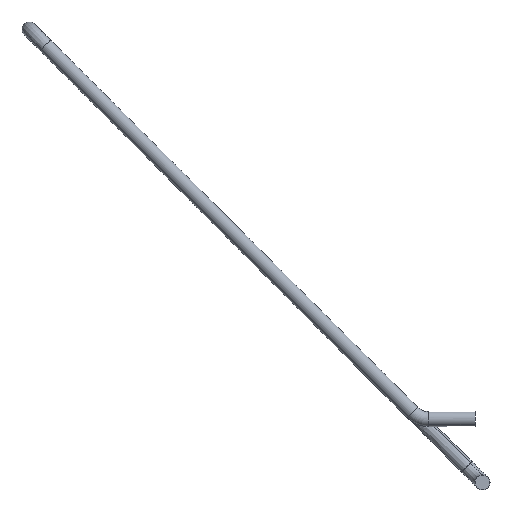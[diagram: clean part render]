
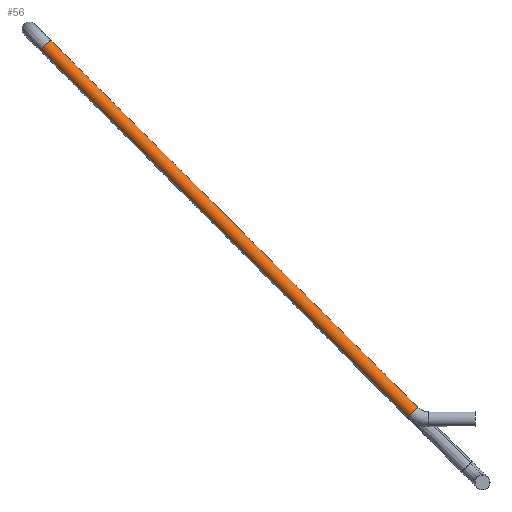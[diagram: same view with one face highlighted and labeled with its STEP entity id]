
A CAD part, left-side view. The second image highlights one B-rep face of the part: STEP entity #56.
In plain terms, the highlighted cylindrical face has radius 1 mm (diameter 2 mm), a partial arc.
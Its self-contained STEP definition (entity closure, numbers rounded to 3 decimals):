
#56=ADVANCED_FACE('',(#79),#80,.T.);
#79=FACE_OUTER_BOUND('',#1287,.T.);
#80=CYLINDRICAL_SURFACE('',#1288,1.0);
#1287=EDGE_LOOP('',(#2517,#2518,#2519,#2520,#2521));
#1288=AXIS2_PLACEMENT_3D('',#2522,#2523,#2524);
#2517=ORIENTED_EDGE('',*,*,#2613,.F.);
#2518=ORIENTED_EDGE('',*,*,#2602,.F.);
#2519=ORIENTED_EDGE('',*,*,#2614,.F.);
#2520=ORIENTED_EDGE('',*,*,#2615,.T.);
#2521=ORIENTED_EDGE('',*,*,#2606,.T.);
#2522=CARTESIAN_POINT('',(0.0,58.541,56.041));
#2523=DIRECTION('',(0.,-0.707,-0.707));
#2524=DIRECTION('',(0.707,-0.5,0.5));
#2602=EDGE_CURVE('',#2647,#2649,#2650,.T.);
#2606=EDGE_CURVE('',#2657,#2655,#2658,.T.);
#2613=EDGE_CURVE('',#2649,#2655,#2669,.T.);
#2614=EDGE_CURVE('',#2670,#2647,#2671,.T.);
#2615=EDGE_CURVE('',#2670,#2657,#2672,.T.);
#2647=VERTEX_POINT('',#2877);
#2649=VERTEX_POINT('',#2895);
#2650=CIRCLE('',#2896,1.0);
#2655=VERTEX_POINT('',#2917);
#2657=VERTEX_POINT('',#2919);
#2658=CIRCLE('',#2920,1.);
#2669=LINE('',#2933,#2934);
#2670=VERTEX_POINT('',#2935);
#2671=LINE('',#2936,#2937);
#2672=CIRCLE('',#2938,1.);
#2877=CARTESIAN_POINT('',(-0.707,59.041,55.541));
#2895=CARTESIAN_POINT('',(0.707,58.041,56.541));
#2896=AXIS2_PLACEMENT_3D('',#3045,#3046,#3047);
#2917=CARTESIAN_POINT('',(0.707,8.879,7.379));
#2919=CARTESIAN_POINT('',(0.,8.672,7.586));
#2920=AXIS2_PLACEMENT_3D('',#3054,#3055,#3056);
#2933=CARTESIAN_POINT('',(0.707,58.041,56.541));
#2934=VECTOR('',#3071,1.0);
#2935=CARTESIAN_POINT('',(-0.707,9.879,6.379));
#2936=CARTESIAN_POINT('',(-0.707,59.041,55.541));
#2937=VECTOR('',#3072,1.0);
#2938=AXIS2_PLACEMENT_3D('',#3073,#3074,#3075);
#3045=CARTESIAN_POINT('',(0.0,58.541,56.041));
#3046=DIRECTION('',(0.,0.707,0.707));
#3047=DIRECTION('',(0.707,-0.5,0.5));
#3054=CARTESIAN_POINT('',(0.0,9.379,6.879));
#3055=DIRECTION('',(0.,0.707,0.707));
#3056=DIRECTION('',(0.707,-0.5,0.5));
#3071=DIRECTION('',(0.0,-0.707,-0.707));
#3072=DIRECTION('',(-0.0,0.707,0.707));
#3073=CARTESIAN_POINT('',(0.0,9.379,6.879));
#3074=DIRECTION('',(0.,0.707,0.707));
#3075=DIRECTION('',(0.707,-0.5,0.5));
